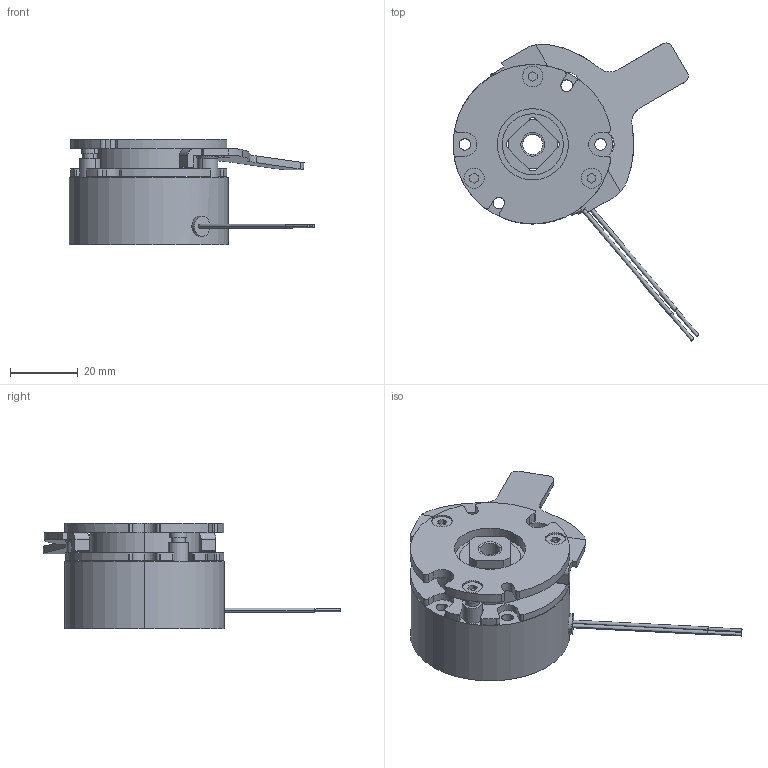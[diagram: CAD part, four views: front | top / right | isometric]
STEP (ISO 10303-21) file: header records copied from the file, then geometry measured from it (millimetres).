
FILE_DESCRIPTION (( 'STEP AP214' ), '1' );
FILE_NAME ('BXW-02-12-6.STEP', '2017-09-07T00:08:26', ( 'MIKI' ), ( '' ), 'SwSTEP 2.0', 'SolidWorks 2012', '' );
FILE_SCHEMA (( 'AUTOMOTIVE_DESIGN' ));
Length unit declared in the file: millimetre
Products named in the file (1): BXW-02-12-6
Bounding box: 72.5 x 87.9 x 31.2 mm (x, y, z)
Volume: 43748.9 mm3; surface area: 18734.1 mm2
Topology: 3 solids, 3 shells, 321 faces, 851 edges, 552 vertices
Faces by surface type: cylinder 160, plane 137, cone 16, torus 8
Entity records: 13834 total; most frequent: CARTESIAN_POINT 2015, DIRECTION 1785, ORIENTED_EDGE 1694, EDGE_CURVE 847, AXIS2_PLACEMENT_3D 652, VERTEX_POINT 552, LINE 481, VECTOR 481
